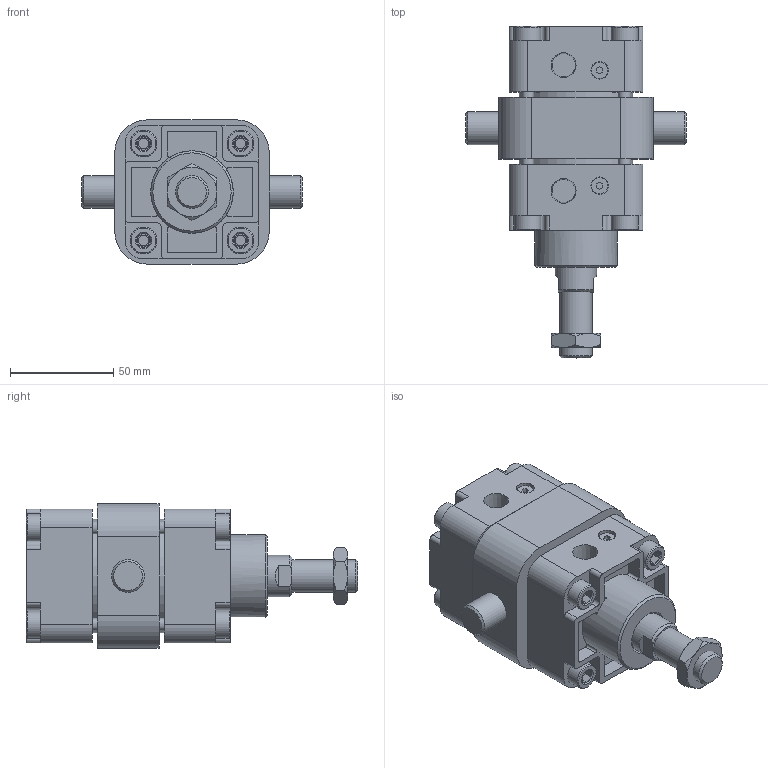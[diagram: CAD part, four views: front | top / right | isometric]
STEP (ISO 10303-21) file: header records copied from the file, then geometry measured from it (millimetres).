
FILE_DESCRIPTION(/* description */ ('Unknown'),/* implementation_level */ '2;1');
FILE_NAME(/* name */ 'WA50-0-TC',/* time_stamp */ '2026-07-17T16:52:27+08:00',/* author */ ('Unknown'),/* organization */ ('Unknown'),/* preprocessor_version */ 'ST-DEVELOPER v16.7',/* originating_system */ 'DEX',/* authorisation */ $);
FILE_SCHEMA (('CONFIG_CONTROL_DESIGN'));
Length unit declared in the file: millimetre
Products named in the file (8): WA50-0-TC; WA50_玡嶈搵; WA50_鋁; WA50_岃搵; WA50_､ﾟｶbｬ｡_;m^XD}; WA50_T´U¤útionRefs; M16-1.5P-8_螺; WA50_TC
Assembly tree (10 placements, depth 2):
  WA50-0-TC
    WA50_玡嶈搵
    WA50_鋁
    WA50_岃搵
    WA50_､ﾟｶbｬ｡_;m^XD}
    WA50_T´U¤útionRefs  x4
    M16-1.5P-8_螺
    WA50_TC
Bounding box: 107 x 161 x 70 mm (x, y, z)
Volume: 437571.9 mm3; surface area: 111833 mm2
Topology: 10 solids, 10 shells, 381 faces, 918 edges, 616 vertices
Faces by surface type: plane 213, cylinder 129, cone 39
Full cylindrical faces by diameter (mm): 5 x12, 6 x4, 8 x2, 8.5 x2, 8.8 x8, 9 x8, 13 x8, 14.5 x1, 16 x3, 20 x2, 40 x1, 49.5 x1, 50 x3, 55 x1, 56 x1
Entity records: 10037 total; most frequent: CARTESIAN_POINT 1457, DIRECTION 1430, ORIENTED_EDGE 1254, EDGE_CURVE 627, AXIS2_PLACEMENT_3D 544, VERTEX_POINT 443, EDGE_LOOP 386, FACE_BOUND 386
